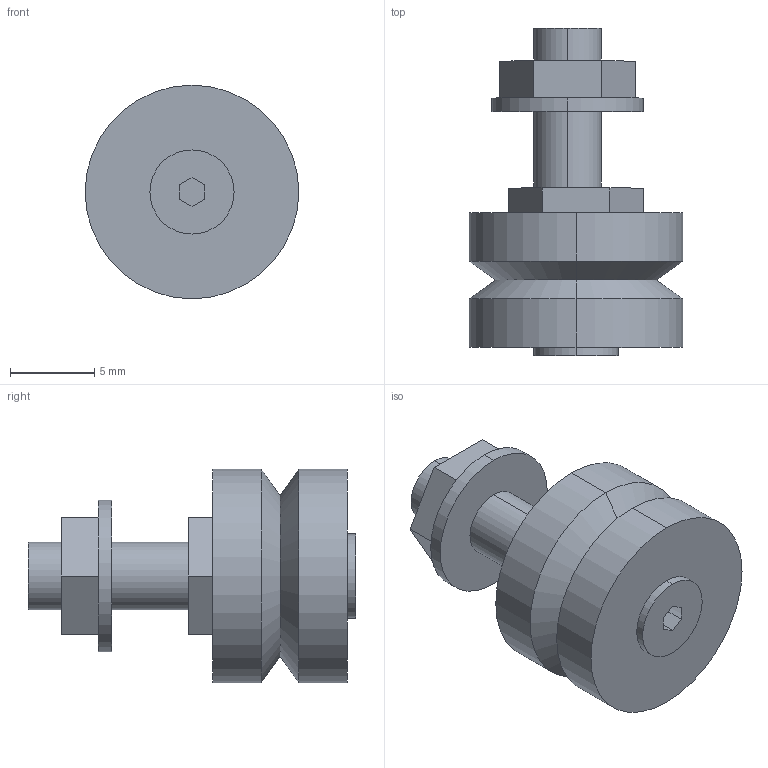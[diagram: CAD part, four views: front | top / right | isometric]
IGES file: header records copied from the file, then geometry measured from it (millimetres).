
Start section: 3D InterOp IGES (v. 2019 1.0.2), Spatial Corp. Copyright (c) 1999-2017.
Global section: file name: SS LJ13 E.igs; native system: Spatial Corp.; preprocessor: 3D InterOp GENERIC/IGES 3.0; author: Noname; organization: Noname; date: 20220628.114758; units: millimetre
Bounding box: 12.7 x 19.47 x 12.7 mm (x, y, z)
Surface area: 932.9 mm2 (no closed solid volume)
Topology: 0 solids, 0 shells, 43 faces, 192 edges, 192 vertices
Faces by surface type: extrusion 27, revolution 16
